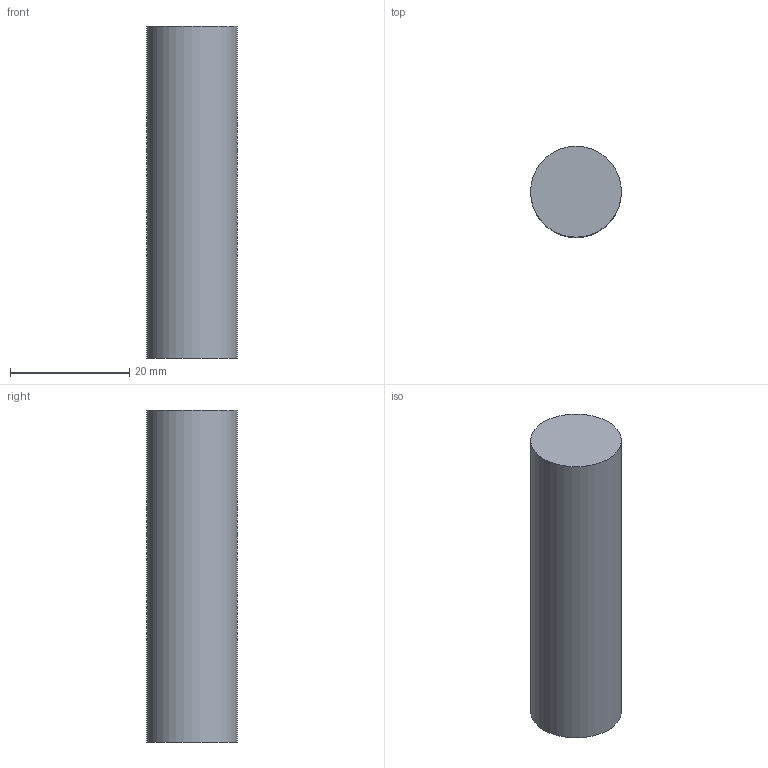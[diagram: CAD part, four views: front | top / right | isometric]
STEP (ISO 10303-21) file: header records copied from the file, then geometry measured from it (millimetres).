
FILE_DESCRIPTION(('Open CASCADE Model'),'2;1');
FILE_NAME('Open CASCADE Shape Model','2026-10-06T03:35:42',('Author'),( 'Open CASCADE'),'Open CASCADE STEP processor 7.8','Open CASCADE 7.8' ,'Unknown');
FILE_SCHEMA(('AUTOMOTIVE_DESIGN { 1 0 10303 214 1 1 1 1 }'));
Length unit declared in the file: millimetre
Products named in the file (1): Open CASCADE STEP translator 7.8 28
Bounding box: 15.24 x 15.24 x 55.63 mm (x, y, z)
Volume: 10147.7 mm3; surface area: 3028.3 mm2
Topology: 1 solids, 1 shells, 3 faces, 3 edges, 2 vertices
Faces by surface type: plane 2, cylinder 1
Full cylindrical faces by diameter (mm): 15.24 x1
Entity records: 108 total; most frequent: DIRECTION 19, CARTESIAN_POINT 15, AXIS2_PLACEMENT_3D 6, ORIENTED_EDGE 6, PCURVE 6, DEFINITIONAL_REPRESENTATION 6, LINE 5, VECTOR 5
